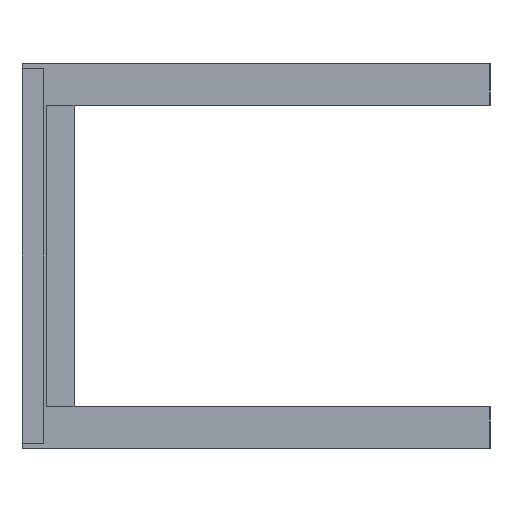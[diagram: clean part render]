
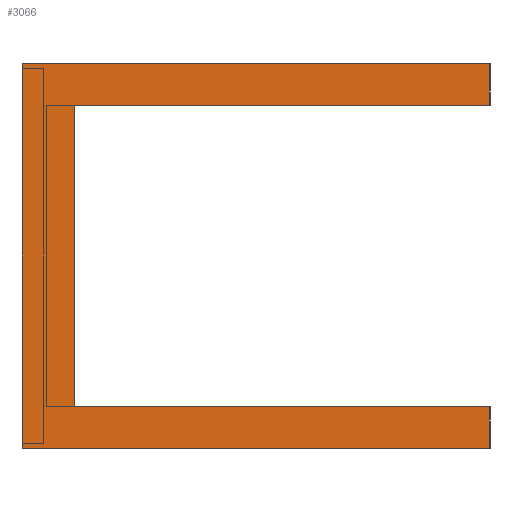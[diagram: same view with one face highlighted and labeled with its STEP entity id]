
A CAD part, left-side view. The second image highlights one B-rep face of the part: STEP entity #3066.
In plain terms, the highlighted planar face has unit normal (-1, 0, 0).
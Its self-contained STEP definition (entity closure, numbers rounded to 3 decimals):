
#248=FACE_OUTER_BOUND('',#388,.T.);
#388=EDGE_LOOP('',(#2745,#2746,#2747,#2748,#2749,#2750,#2751,#2752));
#778=LINE('',#4674,#1206);
#792=LINE('',#4701,#1220);
#797=LINE('',#4711,#1225);
#799=LINE('',#4715,#1227);
#806=LINE('',#4729,#1234);
#809=LINE('',#4736,#1237);
#810=LINE('',#4737,#1238);
#811=LINE('',#4738,#1239);
#1206=VECTOR('',#3847,10.);
#1220=VECTOR('',#3871,10.);
#1225=VECTOR('',#3880,10.);
#1227=VECTOR('',#3884,10.);
#1234=VECTOR('',#3897,10.);
#1237=VECTOR('',#3904,10.);
#1238=VECTOR('',#3905,10.);
#1239=VECTOR('',#3906,10.);
#1491=VERTEX_POINT('',#4671);
#1492=VERTEX_POINT('',#4673);
#1497=VERTEX_POINT('',#4694);
#1500=VERTEX_POINT('',#4699);
#1503=VERTEX_POINT('',#4709);
#1504=VERTEX_POINT('',#4713);
#1509=VERTEX_POINT('',#4734);
#1510=VERTEX_POINT('',#4735);
#1898=EDGE_CURVE('',#1492,#1491,#778,.T.);
#1912=EDGE_CURVE('',#1500,#1497,#792,.T.);
#1917=EDGE_CURVE('',#1503,#1492,#797,.T.);
#1919=EDGE_CURVE('',#1503,#1504,#799,.T.);
#1926=EDGE_CURVE('',#1504,#1500,#806,.T.);
#1929=EDGE_CURVE('',#1509,#1510,#809,.T.);
#1930=EDGE_CURVE('',#1510,#1497,#810,.T.);
#1931=EDGE_CURVE('',#1509,#1491,#811,.T.);
#2745=ORIENTED_EDGE('',*,*,#1929,.T.);
#2746=ORIENTED_EDGE('',*,*,#1930,.T.);
#2747=ORIENTED_EDGE('',*,*,#1912,.F.);
#2748=ORIENTED_EDGE('',*,*,#1926,.F.);
#2749=ORIENTED_EDGE('',*,*,#1919,.F.);
#2750=ORIENTED_EDGE('',*,*,#1917,.T.);
#2751=ORIENTED_EDGE('',*,*,#1898,.T.);
#2752=ORIENTED_EDGE('',*,*,#1931,.F.);
#2929=PLANE('',#3223);
#3066=ADVANCED_FACE('',(#248),#2929,.T.);
#3223=AXIS2_PLACEMENT_3D('',#4733,#3902,#3903);
#3847=DIRECTION('',(0.,0.,1.));
#3871=DIRECTION('',(0.,0.,1.));
#3880=DIRECTION('',(0.,1.,0.));
#3884=DIRECTION('',(0.,0.,-1.));
#3897=DIRECTION('',(0.,1.,0.));
#3902=DIRECTION('center_axis',(-1.,0.,0.));
#3903=DIRECTION('ref_axis',(0.,0.,1.));
#3904=DIRECTION('',(0.,0.,1.));
#3905=DIRECTION('',(0.,1.,0.));
#3906=DIRECTION('',(0.,1.,0.));
#4671=CARTESIAN_POINT('',(-625.,400.,145.));
#4673=CARTESIAN_POINT('',(-625.,400.,-145.));
#4674=CARTESIAN_POINT('',(-625.,400.,-185.));
#4694=CARTESIAN_POINT('',(-625.,450.,185.));
#4699=CARTESIAN_POINT('',(-625.,450.,-185.));
#4701=CARTESIAN_POINT('',(-625.,450.,-185.));
#4709=CARTESIAN_POINT('',(-625.,0.,-145.));
#4711=CARTESIAN_POINT('',(-625.,0.,-145.));
#4713=CARTESIAN_POINT('',(-625.,0.,-185.));
#4715=CARTESIAN_POINT('',(-625.,0.,-145.));
#4729=CARTESIAN_POINT('',(-625.,0.,-185.));
#4733=CARTESIAN_POINT('Origin',(-625.,0.,145.));
#4734=CARTESIAN_POINT('',(-625.,0.,145.));
#4735=CARTESIAN_POINT('',(-625.,0.,185.));
#4736=CARTESIAN_POINT('',(-625.,0.,145.));
#4737=CARTESIAN_POINT('',(-625.,0.,185.));
#4738=CARTESIAN_POINT('',(-625.,0.,145.));
